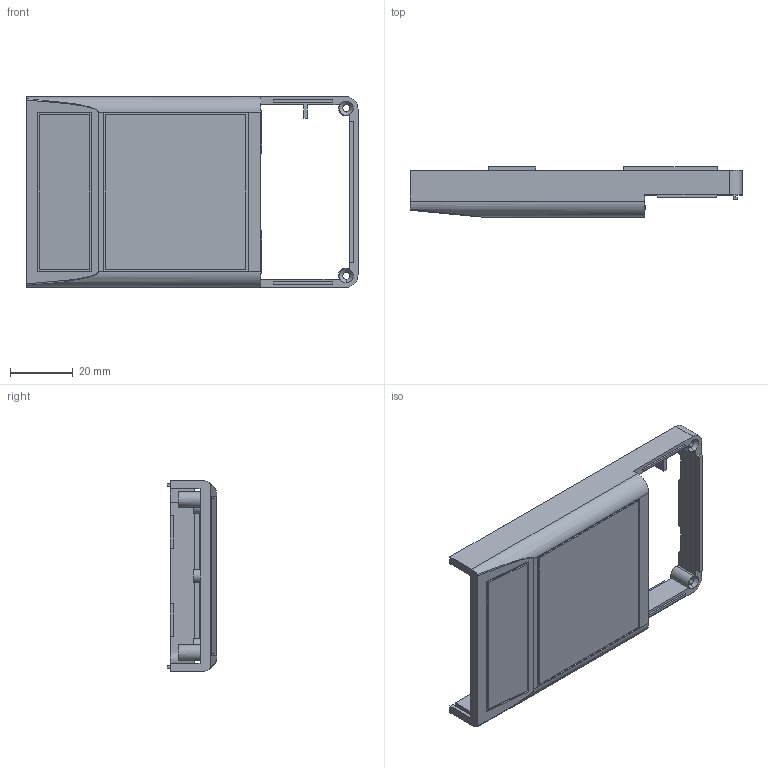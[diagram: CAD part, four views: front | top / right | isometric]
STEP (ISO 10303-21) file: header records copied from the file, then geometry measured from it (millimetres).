
FILE_DESCRIPTION (( 'STEP AP214' ), '1' );
FILE_NAME ('Cuerpo PP51.STEP', '2018-07-09T16:19:16', ( 'aaa' ), ( '' ), 'SwSTEP 2.0', 'SolidWorks 2013', '' );
FILE_SCHEMA (( 'AUTOMOTIVE_DESIGN' ));
Length unit declared in the file: millimetre
Products named in the file (1): Cuerpo PP51
Bounding box: 105.7 x 15.9 x 60.8 mm (x, y, z)
Volume: 22424.6 mm3; surface area: 17280.6 mm2
Topology: 1 solids, 1 shells, 155 faces, 396 edges, 262 vertices
Faces by surface type: plane 117, cylinder 32, cone 4, bspline 2
Entity records: 4740 total; most frequent: CARTESIAN_POINT 914, ORIENTED_EDGE 792, DIRECTION 750, EDGE_CURVE 396, LINE 322, VECTOR 322, VERTEX_POINT 262, AXIS2_PLACEMENT_3D 214
